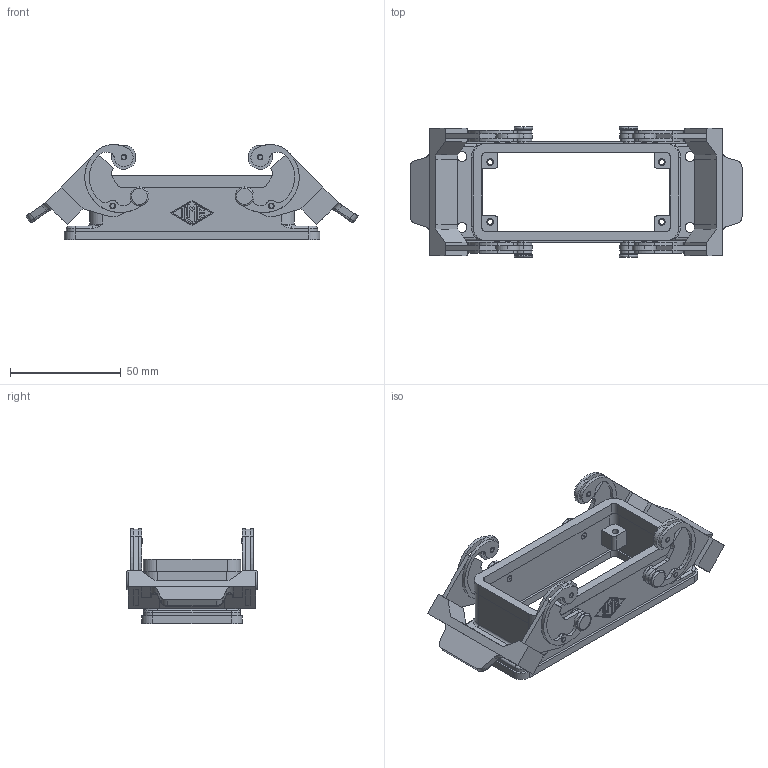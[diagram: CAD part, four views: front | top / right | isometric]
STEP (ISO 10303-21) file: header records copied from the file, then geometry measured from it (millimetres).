
FILE_DESCRIPTION (( 'STEP AP214' ), '1' );
FILE_NAME ('CHI16.STEP', '2015-05-12T12:35:35', ( 'richard gronsfeld' ), ( '' ), 'SwSTEP 2.0', 'SolidWorks 2007', '' );
FILE_SCHEMA (( 'AUTOMOTIVE_DESIGN' ));
Length unit declared in the file: millimetre
Products named in the file (1): CHI16
Bounding box: 149.99 x 59 x 42.94 mm (x, y, z)
Volume: 53119.5 mm3; surface area: 36723.8 mm2
Topology: 1 solids, 5 shells, 734 faces, 1965 edges, 1287 vertices
Faces by surface type: cylinder 335, plane 323, bspline 44, torus 24, cone 8
Entity records: 34714 total; most frequent: CARTESIAN_POINT 7895, DIRECTION 4046, ORIENTED_EDGE 3906, EDGE_CURVE 1953, AXIS2_PLACEMENT_3D 1542, VERTEX_POINT 1287, VECTOR 962, LINE 962
